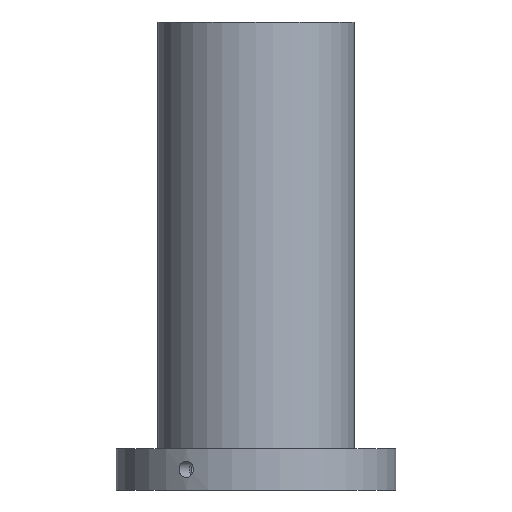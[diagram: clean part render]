
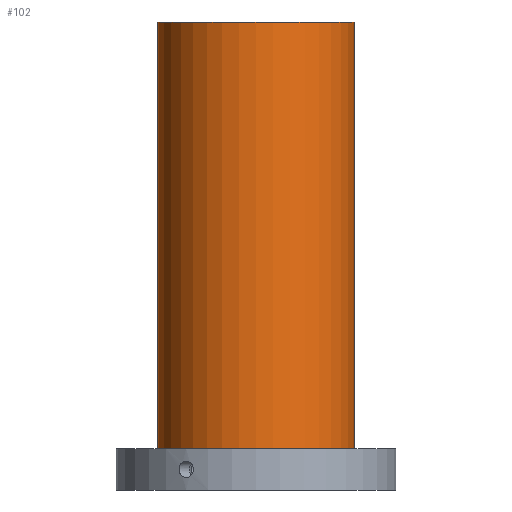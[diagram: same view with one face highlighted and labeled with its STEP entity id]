
A CAD part, front view. The second image highlights one B-rep face of the part: STEP entity #102.
In plain terms, the highlighted cylindrical face has radius 47.5 mm (diameter 95 mm), a full revolution.
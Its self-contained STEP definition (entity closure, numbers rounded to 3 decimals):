
#102=ADVANCED_FACE('',(#136,#137),#119,.T.);
#119=CYLINDRICAL_SURFACE('',#371,47.5);
#136=FACE_BOUND('',#188,.T.);
#137=FACE_BOUND('',#189,.T.);
#188=EDGE_LOOP('',(#240));
#189=EDGE_LOOP('',(#241));
#240=ORIENTED_EDGE('',*,*,#318,.F.);
#241=ORIENTED_EDGE('',*,*,#319,.T.);
#292=VERTEX_POINT('',#557);
#293=VERTEX_POINT('',#559);
#318=EDGE_CURVE('',#292,#292,#343,.T.);
#319=EDGE_CURVE('',#293,#293,#344,.T.);
#343=CIRCLE('',#369,47.5);
#344=CIRCLE('',#370,47.5);
#369=AXIS2_PLACEMENT_3D('',#556,#415,#416);
#370=AXIS2_PLACEMENT_3D('',#558,#417,#418);
#371=AXIS2_PLACEMENT_3D('',#560,#419,#420);
#415=DIRECTION('',(0.,0.,-1.));
#416=DIRECTION('',(1.,0.,0.));
#417=DIRECTION('',(0.,0.,-1.));
#418=DIRECTION('',(1.,0.,0.));
#419=DIRECTION('',(0.,0.,-1.));
#420=DIRECTION('',(-1.,0.,0.));
#556=CARTESIAN_POINT('',(0.,0.,20.));
#557=CARTESIAN_POINT('',(47.5,0.,20.));
#558=CARTESIAN_POINT('',(0.,0.,226.));
#559=CARTESIAN_POINT('',(47.5,0.,226.));
#560=CARTESIAN_POINT('',(0.,0.,226.));
